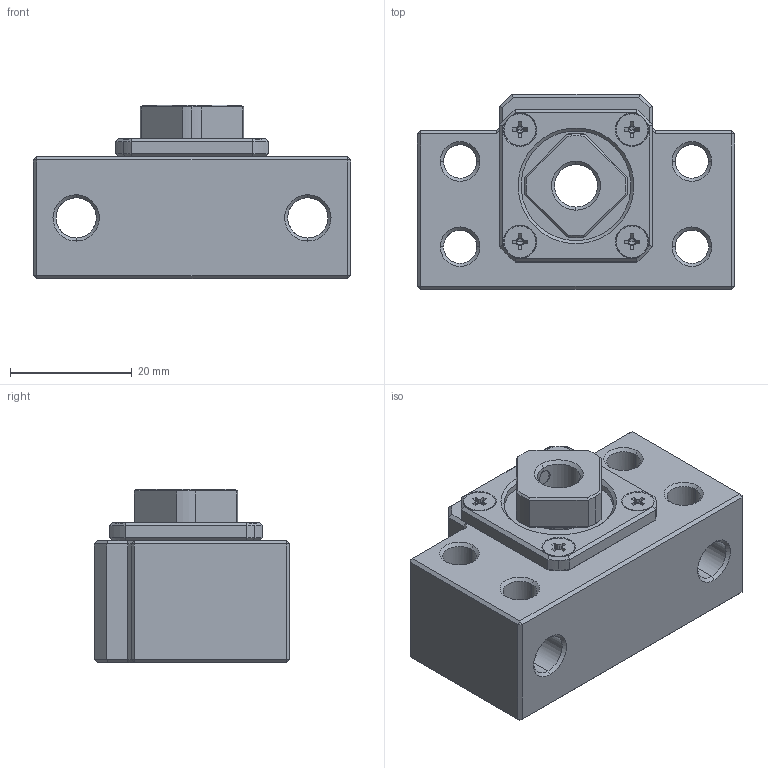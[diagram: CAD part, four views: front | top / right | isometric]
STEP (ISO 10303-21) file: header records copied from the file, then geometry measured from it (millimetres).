
FILE_DESCRIPTION (( 'STEP AP203' ), '1' );
FILE_NAME ('ASGK-8-P5_203.STEP', '2013-02-27T23:41:45', ( '' ), ( '' ), 'SwSTEP 2.0', 'SolidWorks 2012', '' );
FILE_SCHEMA (( 'CONFIG_CONTROL_DESIGN' ));
Length unit declared in the file: millimetre
Products named in the file (1): ASGK-8-P5_203
Bounding box: 52 x 32 x 28.5 mm (x, y, z)
Volume: 26388.5 mm3; surface area: 11233.2 mm2
Topology: 1 solids, 16 shells, 436 faces, 1037 edges, 612 vertices
Faces by surface type: plane 179, cone 128, cylinder 105, torus 24
Entity records: 13217 total; most frequent: CARTESIAN_POINT 3186, DIRECTION 2128, ORIENTED_EDGE 2038, EDGE_CURVE 1019, AXIS2_PLACEMENT_3D 846, VERTEX_POINT 612, EDGE_LOOP 475, VECTOR 436
